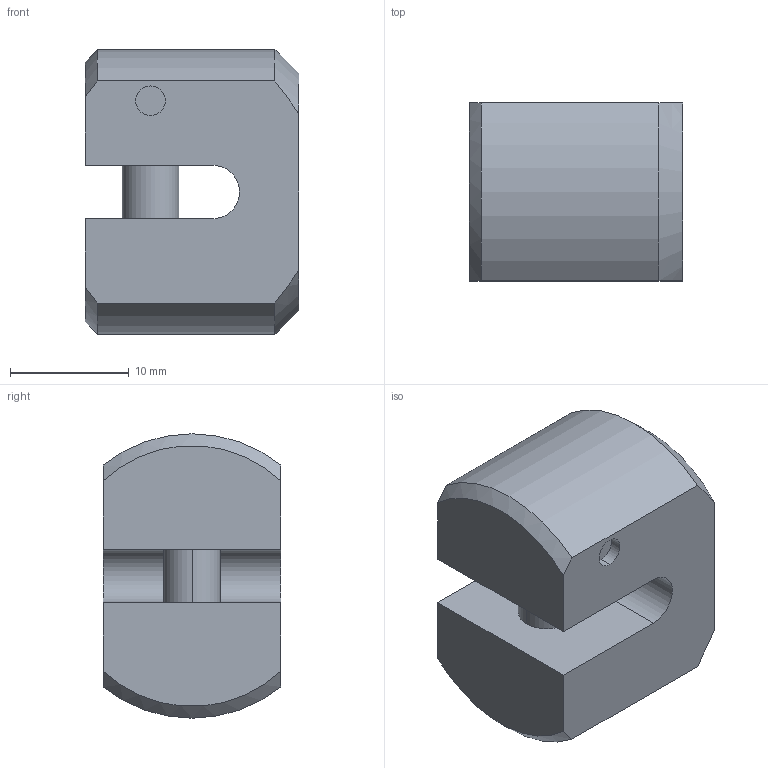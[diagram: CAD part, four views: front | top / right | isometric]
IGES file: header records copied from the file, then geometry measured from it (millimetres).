
Start section:  PTC IGES file: VEA-4_7990215_M31343-P-1.igs
Global section: file name: VEA-4_7990215_M31343-P-1.igs; native system: Pro/ENGINEER by Parametric Technology Corporation; preprocessor: 2011490; author: Andreas.Wendler; organization: Unknown; date: 20161215.131337; units: millimetre
Bounding box: 18 x 15 x 24 mm (x, y, z)
Volume: 5162.2 mm3; surface area: 2249.2 mm2
Topology: 1 solids, 1 shells, 347 faces, 990 edges, 660 vertices
Faces by surface type: bspline 334, revolution 13
